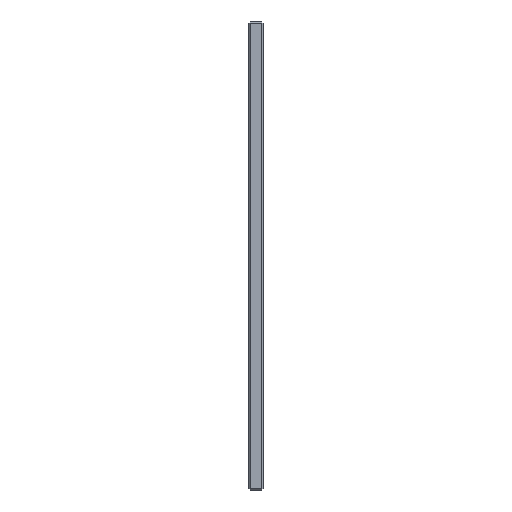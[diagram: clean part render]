
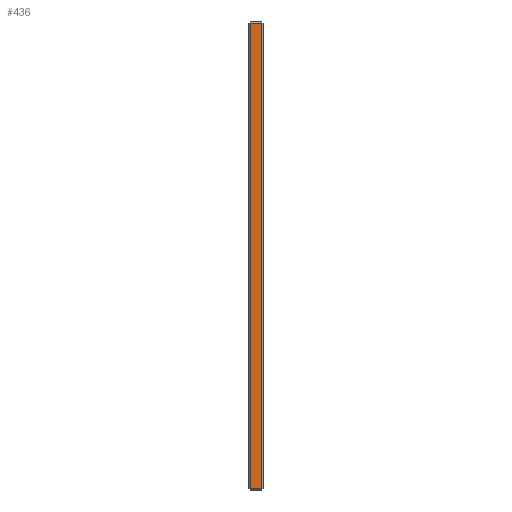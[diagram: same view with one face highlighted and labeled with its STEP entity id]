
A CAD part, left-side view. The second image highlights one B-rep face of the part: STEP entity #436.
In plain terms, the highlighted planar face has unit normal (-1, 0, 0).
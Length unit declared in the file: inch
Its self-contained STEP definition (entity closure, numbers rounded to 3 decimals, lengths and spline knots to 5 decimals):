
#18 = DIRECTION ( 'NONE',  ( 0., 0., -1. ) ) ;
#26 = CARTESIAN_POINT ( 'NONE',  ( -12.9375, 0.45, -7.875 ) ) ;
#38 = EDGE_LOOP ( 'NONE', ( #564, #1644, #1394, #768 ) ) ;
#43 = VERTEX_POINT ( 'NONE', #897 ) ;
#53 = LINE ( 'NONE', #26, #1925 ) ;
#73 = DIRECTION ( 'NONE',  ( 0., 1., 0. ) ) ;
#86 = DIRECTION ( 'NONE',  ( 0., 0., -1. ) ) ;
#148 = VERTEX_POINT ( 'NONE', #1851 ) ;
#153 = VECTOR ( 'NONE', #73, 39.37008 ) ;
#402 = EDGE_CURVE ( 'NONE', #765, #43, #1133, .T. ) ;
#416 = CARTESIAN_POINT ( 'NONE',  ( -12.9375, 0.05, -7.875 ) ) ;
#430 = VECTOR ( 'NONE', #720, 39.37008 ) ;
#436 = ADVANCED_FACE ( 'Placement Plane', ( #639 ), #707, .F. ) ;
#564 = ORIENTED_EDGE ( 'NONE', *, *, #1065, .T. ) ;
#639 = FACE_OUTER_BOUND ( 'NONE', #38, .T. ) ;
#707 = PLANE ( 'NONE',  #784 ) ;
#720 = DIRECTION ( 'NONE',  ( 0., 0., 1. ) ) ;
#725 = VERTEX_POINT ( 'NONE', #1096 ) ;
#765 = VERTEX_POINT ( 'NONE', #1626 ) ;
#768 = ORIENTED_EDGE ( 'NONE', *, *, #1983, .T. ) ;
#784 = AXIS2_PLACEMENT_3D ( 'NONE', #1834, #863, #86 ) ;
#863 = DIRECTION ( 'NONE',  ( 1., 0., 0. ) ) ;
#897 = CARTESIAN_POINT ( 'NONE',  ( -12.9375, 0.05, 7.825 ) ) ;
#914 = LINE ( 'NONE', #1968, #153 ) ;
#947 = LINE ( 'NONE', #1747, #1141 ) ;
#1065 = EDGE_CURVE ( 'NONE', #148, #725, #53, .T. ) ;
#1096 = CARTESIAN_POINT ( 'NONE',  ( -12.9375, 0.45, -7.825 ) ) ;
#1133 = LINE ( 'NONE', #416, #430 ) ;
#1141 = VECTOR ( 'NONE', #1915, 39.37008 ) ;
#1176 = EDGE_CURVE ( 'NONE', #725, #765, #947, .T. ) ;
#1394 = ORIENTED_EDGE ( 'NONE', *, *, #402, .T. ) ;
#1626 = CARTESIAN_POINT ( 'NONE',  ( -12.9375, 0.05, -7.825 ) ) ;
#1644 = ORIENTED_EDGE ( 'NONE', *, *, #1176, .T. ) ;
#1747 = CARTESIAN_POINT ( 'NONE',  ( -12.9375, 0.5, -7.825 ) ) ;
#1834 = CARTESIAN_POINT ( 'NONE',  ( -12.9375, 0.5, -7.875 ) ) ;
#1851 = CARTESIAN_POINT ( 'NONE',  ( -12.9375, 0.45, 7.825 ) ) ;
#1915 = DIRECTION ( 'NONE',  ( 0., -1., 0. ) ) ;
#1925 = VECTOR ( 'NONE', #18, 39.37008 ) ;
#1968 = CARTESIAN_POINT ( 'NONE',  ( -12.9375, 0.5, 7.825 ) ) ;
#1983 = EDGE_CURVE ( 'NONE', #43, #148, #914, .T. ) ;
